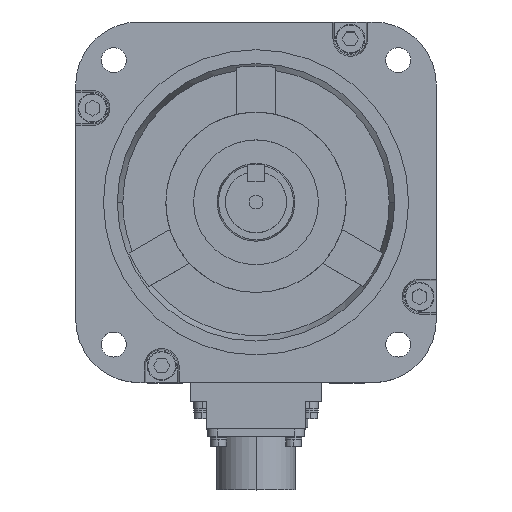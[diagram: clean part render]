
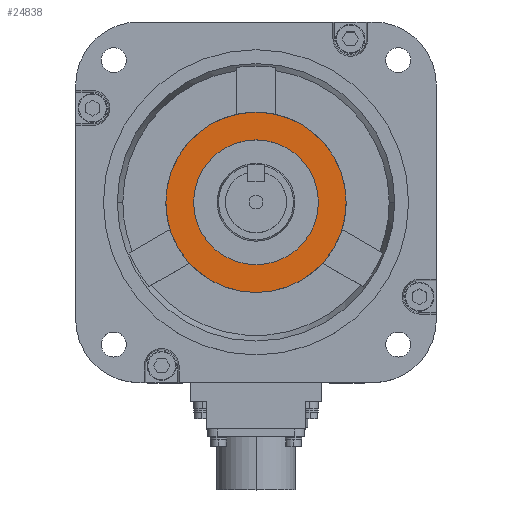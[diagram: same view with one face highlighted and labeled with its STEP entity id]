
A CAD part, top view. The second image highlights one B-rep face of the part: STEP entity #24838.
In plain terms, the highlighted planar face has unit normal (0, 0, 1).
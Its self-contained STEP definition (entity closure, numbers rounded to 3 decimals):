
#44 = VERTEX_POINT ( 'NONE', #22206 ) ;
#300 = DIRECTION ( 'NONE',  ( 1., 0., 0. ) ) ;
#301 = DIRECTION ( 'NONE',  ( 0., 0., 1. ) ) ;
#302 = AXIS2_PLACEMENT_3D ( 'NONE', #307, #301, #300 ) ;
#303 = CIRCLE ( 'NONE', #302, 32.5 ) ;
#307 = CARTESIAN_POINT ( 'NONE',  ( 0., 0., 6. ) ) ;
#831 = VERTEX_POINT ( 'NONE', #22707 ) ;
#3816 = EDGE_CURVE ( 'NONE', #831, #44, #303, .T. ) ;
#8330 = CARTESIAN_POINT ( 'NONE',  ( 22.5, 0., 6. ) ) ;
#8518 = DIRECTION ( 'NONE',  ( 1., 0., 0. ) ) ;
#8519 = DIRECTION ( 'NONE',  ( 0., 0., 1. ) ) ;
#8520 = CARTESIAN_POINT ( 'NONE',  ( 0., 0., 6. ) ) ;
#8522 = AXIS2_PLACEMENT_3D ( 'NONE', #8520, #8519, #8518 ) ;
#8523 = CIRCLE ( 'NONE', #8522, 22.5 ) ;
#8549 = CARTESIAN_POINT ( 'NONE',  ( -22.5, 0., 6. ) ) ;
#10888 = DIRECTION ( 'NONE',  ( 1., 0., 0. ) ) ;
#10889 = DIRECTION ( 'NONE',  ( 0., 0., 1. ) ) ;
#10890 = CARTESIAN_POINT ( 'NONE',  ( 0., 0., 6. ) ) ;
#10891 = AXIS2_PLACEMENT_3D ( 'NONE', #10890, #10889, #10888 ) ;
#10892 = PLANE ( 'NONE',  #10891 ) ;
#10893 = FACE_OUTER_BOUND ( 'NONE', #24776, .T. ) ;
#10894 = FACE_BOUND ( 'NONE', #24815, .T. ) ;
#11981 = DIRECTION ( 'NONE',  ( 1., 0., 0. ) ) ;
#11982 = DIRECTION ( 'NONE',  ( 0., 0., 1. ) ) ;
#11983 = CARTESIAN_POINT ( 'NONE',  ( 0., 0., 6. ) ) ;
#11984 = AXIS2_PLACEMENT_3D ( 'NONE', #11983, #11982, #11981 ) ;
#11985 = CIRCLE ( 'NONE', #11984, 22.5 ) ;
#12142 = DIRECTION ( 'NONE',  ( 1., 0., 0. ) ) ;
#12143 = DIRECTION ( 'NONE',  ( 0., 0., 1. ) ) ;
#12144 = CARTESIAN_POINT ( 'NONE',  ( 0., 0., 6. ) ) ;
#12145 = AXIS2_PLACEMENT_3D ( 'NONE', #12144, #12143, #12142 ) ;
#12146 = CIRCLE ( 'NONE', #12145, 32.5 ) ;
#22206 = CARTESIAN_POINT ( 'NONE',  ( -32.5, 0., 6. ) ) ;
#22707 = CARTESIAN_POINT ( 'NONE',  ( 32.5, 0., 6. ) ) ;
#23372 = VERTEX_POINT ( 'NONE', #8330 ) ;
#23465 = EDGE_CURVE ( 'NONE', #23490, #23372, #8523, .T. ) ;
#23490 = VERTEX_POINT ( 'NONE', #8549 ) ;
#24731 = ORIENTED_EDGE ( 'NONE', *, *, #3816, .T. ) ;
#24776 = EDGE_LOOP ( 'NONE', ( #24731, #25265 ) ) ;
#24789 = ORIENTED_EDGE ( 'NONE', *, *, #23465, .F. ) ;
#24795 = ORIENTED_EDGE ( 'NONE', *, *, #25502, .F. ) ;
#24815 = EDGE_LOOP ( 'NONE', ( #24795, #24789 ) ) ;
#24838 = ADVANCED_FACE ( 'NONE', ( #10894, #10893 ), #10892, .T. ) ;
#25265 = ORIENTED_EDGE ( 'NONE', *, *, #25583, .T. ) ;
#25502 = EDGE_CURVE ( 'NONE', #23372, #23490, #11985, .T. ) ;
#25583 = EDGE_CURVE ( 'NONE', #44, #831, #12146, .T. ) ;
